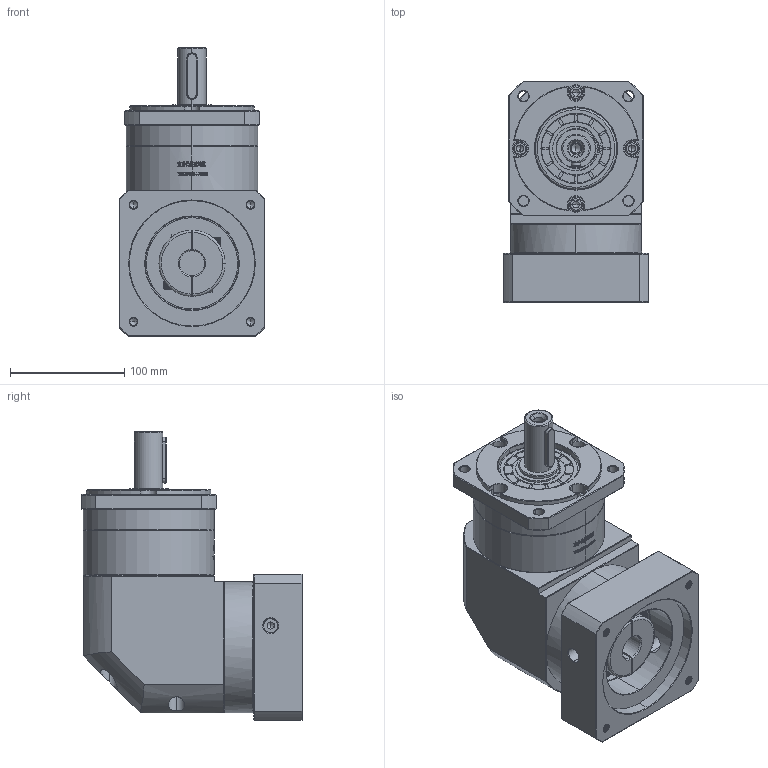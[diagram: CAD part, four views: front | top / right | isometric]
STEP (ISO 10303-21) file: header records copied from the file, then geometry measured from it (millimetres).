
FILE_DESCRIPTION (( 'STEP AP214' ), '1' );
FILE_NAME ('ZFR120A-D25-L1-22-110-145-M8.step', '2023-03-08T08:18:30', ( '' ), ( '' ), 'SwSTEP 2.0', 'SolidWorks 2016', '' );
FILE_SCHEMA (( 'AUTOMOTIVE_DESIGN' ));
Length unit declared in the file: millimetre
Products named in the file (1): ZFR120A-D25-L1-22-110-145-M8
Bounding box: 128 x 193.9 x 253 mm (x, y, z)
Volume: 2976746.7 mm3; surface area: 251438.5 mm2
Topology: 6 solids, 6 shells, 2871 faces, 7670 edges, 4944 vertices
Faces by surface type: plane 1484, bspline 607, cylinder 434, cone 338, torus 8
Entity records: 157838 total; most frequent: CARTESIAN_POINT 60493, ORIENTED_EDGE 15280, DIRECTION 11111, EDGE_CURVE 7640, VERTEX_POINT 4944, LINE 4749, VECTOR 4749, AXIS2_PLACEMENT_3D 3181
